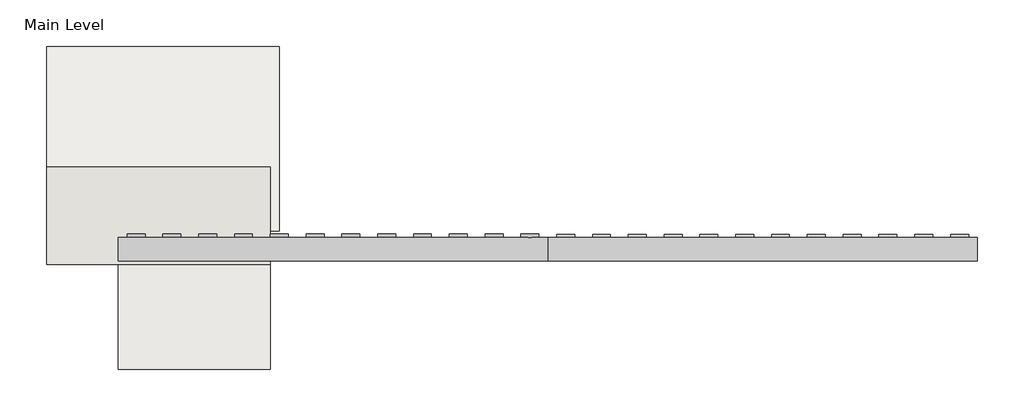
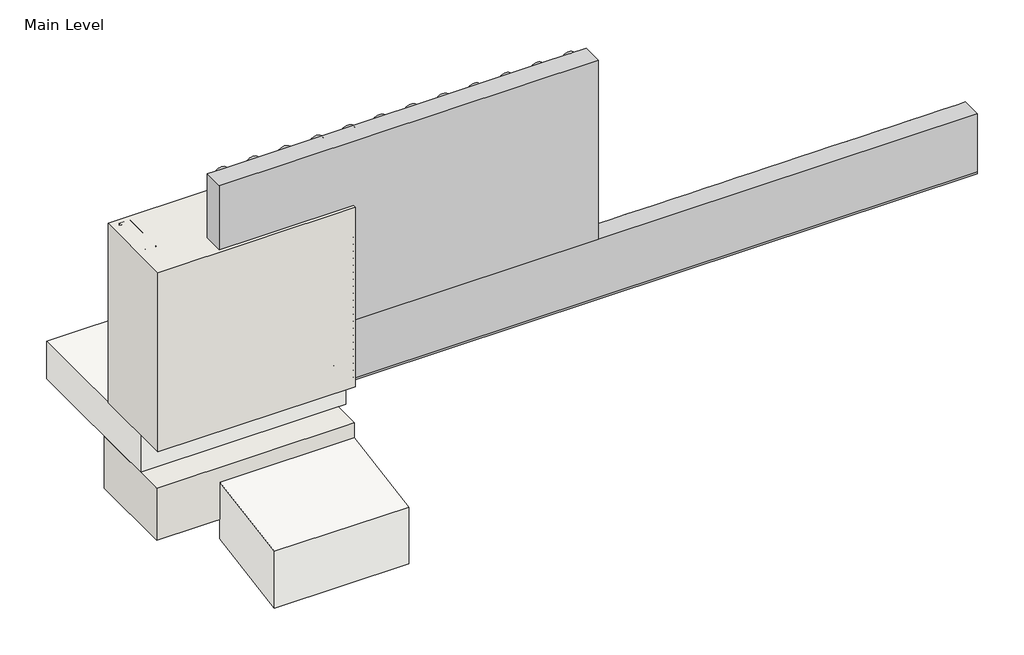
# One storey, incomplete: 10 proxies, 2 slabs, 2 walls.
"""IFC4 building model written with IfcOpenShell, lengths in millimetres."""

from ifc_helpers import new_model, si_unit, frame, origin, origin_with_axes, place, context, project, spatial, polyline, outline, extrude, transform, mapped, element, save
from components import generic_models_31547c53, generic_models_0bbfdc8f, generic_models_1e1ad44f, generic_models_7dd17a53, generic_models_441de798, generic_models_e46152ee, generic_models_9d0e7a2a, proxy_50213ae0, proxy_cc65e3d2, wood_blocking_c9818c35

model = new_model("IFC4")

# Units and contexts
model_context = context("Model", 3, world=origin())
ifc_project = project(units=[si_unit("LENGTHUNIT", "METRE", prefix="MILLI")], contexts=[model_context])

# Site, building, storey
site = spatial("IfcSite", under=ifc_project)
building = spatial("IfcBuilding", under=site)
storey = spatial("IfcBuildingStorey", under=building, Name="Main Level", Elevation=0.0)

# Proxies
placement = place(None, origin())
generic_models_shape = generic_models_31547c53(model_context)
element("IfcBuildingElementProxy", 1, Name="Durabond Generic Model Sealant Vent : Durabond Generic Model Sealant Vent", ObjectType="Durabond Generic Model Sealant Vent : Durabond Generic Model Sealant Vent", at=placement, inside=storey, context=model_context, shape_type="MappedRepresentation", body=[
    mapped(generic_models_shape, transform((26865.4101773, 546.8432813, 8.5594788), x_axis=(1.0, 0.0, 0.0), y_axis=(0.0, 0.08715574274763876, -0.9961946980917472), z_axis=(0.0, 0.9961946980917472, 0.08715574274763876))),
])
generic_models_2_shape = generic_models_0bbfdc8f(model_context)
generic_models_3_shape = generic_models_1e1ad44f(model_context)
generic_models_4_shape = generic_models_7dd17a53(model_context)
generic_models_5_shape = generic_models_441de798(model_context)
element("IfcBuildingElementProxy", 2, Name="CRAi Generic Model Mesh Piece Face Based : CRAi Generic Model Mesh Piece Face Based", ObjectType="CRAi Generic Model Mesh Piece Face Based : CRAi Generic Model Mesh Piece Face Based", at=placement, inside=storey, context=model_context, shape_type="MappedRepresentation", body=[
    mapped(generic_models_2_shape, transform((26933.6726773, 541.9066297, 261.6963215), x_axis=(-1.0, 0.0, 0.0), y_axis=(0.0, 0.0, -1.0), z_axis=(0.0, -1.0, 0.0))),
    mapped(generic_models_3_shape, transform((26933.6726773, 541.9066297, 261.6963215), x_axis=(-1.0, 0.0, 0.0), y_axis=(0.0, 0.0, -1.0), z_axis=(0.0, -1.0, 0.0))),
    mapped(generic_models_4_shape, transform((26933.6726773, 541.9066297, 261.6963215), x_axis=(-1.0, 0.0, 0.0), y_axis=(0.0, 0.0, -1.0), z_axis=(0.0, -1.0, 0.0))),
    mapped(generic_models_5_shape, transform((26933.6726773, 541.9066297, 261.6963215), x_axis=(-1.0, 0.0, 0.0), y_axis=(0.0, 0.0, -1.0), z_axis=(0.0, -1.0, 0.0))),
])
generic_models_6_shape = generic_models_e46152ee(model_context)
element("IfcBuildingElementProxy", 3, Name="Durabond Generic Model Insulation Adhesive Flat : Durabond Generic Model Insulation Adhesive Flat", ObjectType="Durabond Generic Model Insulation Adhesive Flat : Durabond Generic Model Insulation Adhesive Flat", at=placement, inside=storey, context=model_context, shape_type="MappedRepresentation", body=[
    mapped(generic_models_6_shape, transform((26717.7726773, 627.6316297, 76.2), x_axis=(1.0, 0.0, 0.0), y_axis=(0.0, 1.0, 0.0), z_axis=(0.0, 0.0, 1.0))),
])
element("IfcBuildingElementProxy", 4, Name="Durabond Generic Model Insulation Adhesive Flat : Durabond Generic Model Insulation Adhesive Flat", ObjectType="Durabond Generic Model Insulation Adhesive Flat : Durabond Generic Model Insulation Adhesive Flat", at=placement, inside=storey, context=model_context, shape_type="MappedRepresentation", body=[
    mapped(generic_models_6_shape, transform((26819.3726773, 627.6316297, 76.2), x_axis=(1.0, 0.0, 0.0), y_axis=(0.0, 1.0, 0.0), z_axis=(0.0, 0.0, 1.0))),
])
element("IfcBuildingElementProxy", 5, Name="Durabond Generic Model Insulation Adhesive Flat : Durabond Generic Model Insulation Adhesive Flat", ObjectType="Durabond Generic Model Insulation Adhesive Flat : Durabond Generic Model Insulation Adhesive Flat", at=placement, inside=storey, context=model_context, shape_type="MappedRepresentation", body=[
    mapped(generic_models_6_shape, transform((26920.9726773, 627.6316297, 76.2), x_axis=(1.0, 0.0, 0.0), y_axis=(0.0, 1.0, 0.0), z_axis=(0.0, 0.0, 1.0))),
])
element("IfcBuildingElementProxy", 6, Name="Durabond Generic Model Insulation Adhesive Flat : Durabond Generic Model Insulation Adhesive Flat", ObjectType="Durabond Generic Model Insulation Adhesive Flat : Durabond Generic Model Insulation Adhesive Flat", at=placement, inside=storey, context=model_context, shape_type="MappedRepresentation", body=[
    mapped(generic_models_6_shape, transform((27022.5726773, 627.6316297, 76.2), x_axis=(1.0, 0.0, 0.0), y_axis=(0.0, 1.0, 0.0), z_axis=(0.0, 0.0, 1.0))),
])
generic_models_7_shape = generic_models_9d0e7a2a(model_context)
element("IfcBuildingElementProxy", 7, Name="CRAi Generic Model Metal Stud Array : CRAi Generic Model Metal Stud Array", ObjectType="CRAi Generic Model Metal Stud Array : CRAi Generic Model Metal Stud Array", at=placement, inside=storey, context=model_context, shape_type="MappedRepresentation", body=[
    mapped(generic_models_7_shape, transform((26692.3726773, 726.0566297, 6.35), x_axis=(-1.0, 0.0, 0.0), y_axis=(0.0, -1.0, 0.0), z_axis=(0.0, 0.0, 1.0))),
])
proxy_shape = proxy_50213ae0(model_context)
element("IfcBuildingElementProxy", 8, Name="Durabond Generic Model Quantum Select 5-0 Insulation Board : 3\"", ObjectType="Durabond Generic Model Quantum Select 5-0 Insulation Board : 3\"", at=placement, inside=storey, context=model_context, shape_type="MappedRepresentation", body=[
    mapped(proxy_shape, transform((27276.5726773, 624.4566297, 523.392643), x_axis=(1.0, 0.0, 0.0), y_axis=(0.0, 0.0, 1.0), z_axis=(0.0, -1.0, 0.0))),
])
proxy_2_shape = proxy_cc65e3d2(model_context)
element("IfcBuildingElementProxy", 9, Name="Durabond Generic Model Quantum Select 5-0 Vent Board : 3\"", ObjectType="Durabond Generic Model Quantum Select 5-0 Vent Board : 3\"", at=placement, inside=storey, context=model_context, shape_type="MappedRepresentation", body=[
    mapped(proxy_2_shape, transform((27886.1726773, 624.4566297, 116.992643), x_axis=(1.0, 0.0, 0.0), y_axis=(0.0, 0.0, 1.0), z_axis=(0.0, -1.0, 0.0))),
])
wood_blocking_shape = wood_blocking_c9818c35(model_context)
element("IfcBuildingElementProxy", 10, Name="CRAi Generic Model Line Based Metal Framing Track : Wood Blocking", ObjectType="CRAi Generic Model Line Based Metal Framing Track : Wood Blocking", at=placement, inside=storey, context=model_context, shape_type="MappedRepresentation", body=[
    mapped(wood_blocking_shape, transform((26489.1726773, 649.8566297, 0.0), x_axis=(1.0, 0.0, 0.0), y_axis=(0.0, 1.0, 0.0), z_axis=(0.0, 0.0, 1.0))),
])

# Slabs
element("IfcSlab", 11, ObjectType="CRAi Concrete Floor - 5\"", at=placement, inside=storey, context=model_context, shape_type="SweptSolid", body=[
    extrude(outline(polyline([(27124.1726773, 633.9816297), (26463.7726773, 633.9816297), (26463.7726773, 1157.8566297), (27124.1726773, 1157.8566297), (27124.1726773, 633.9816297)])), frame((0.0, 0.0, -127.0), z_axis=(0.0, 0.0, 1.0), x_axis=(1.0, 0.0, 0.0)), (0.0, 0.0, 1.0), 127.0),
])
element("IfcSlab", 12, ObjectType="dIRT", at=placement, inside=storey, context=model_context, shape_type="SweptSolid", body=[
    extrude(outline(polyline([(545.0816297, -370.9277103), (240.2816297, -421.7277103), (240.2816297, -228.6), (545.0816297, -177.8), (545.0816297, -370.9277103)])), frame((26666.9726773, 0.0, 0.0), z_axis=(1.0, 0.0, 0.0), x_axis=(0.0, 1.0, 0.0)), (0.0, 0.0, 1.0), 431.8),
])

# Walls
element("IfcWall", 13, ObjectType="189mm (7.5”) EIFS Field Applied on Mtl. Stud Layer - 50mm Grooved Insulation Board Metal Stud Wall", at=placement, inside=storey, context=model_context, shape_type="SweptSolid", body=[
    extrude(outline(polyline([(27098.7726773, 538.7316297), (26463.7726773, 538.7316297), (26463.7726773, 814.9566297), (27098.7726773, 814.9566297), (27098.7726773, 538.7316297)])), origin_with_axes(), (0.0, 0.0, 1.0), 609.6),
])
element("IfcWall", 14, ObjectType="CRAi Insulated Foundation", at=placement, inside=storey, context=model_context, shape_type="SweptSolid", body=[
    extrude(outline(polyline([(27098.7726773, 545.0816297), (26463.7726773, 545.0816297), (26463.7726773, 837.1816297), (27098.7726773, 837.1816297), (27098.7726773, 545.0816297)])), frame((0.0, 0.0, -304.8), z_axis=(0.0, 0.0, 1.0), x_axis=(1.0, 0.0, 0.0)), (0.0, 0.0, 1.0), 177.8),
])

save(model, "model.ifc")
